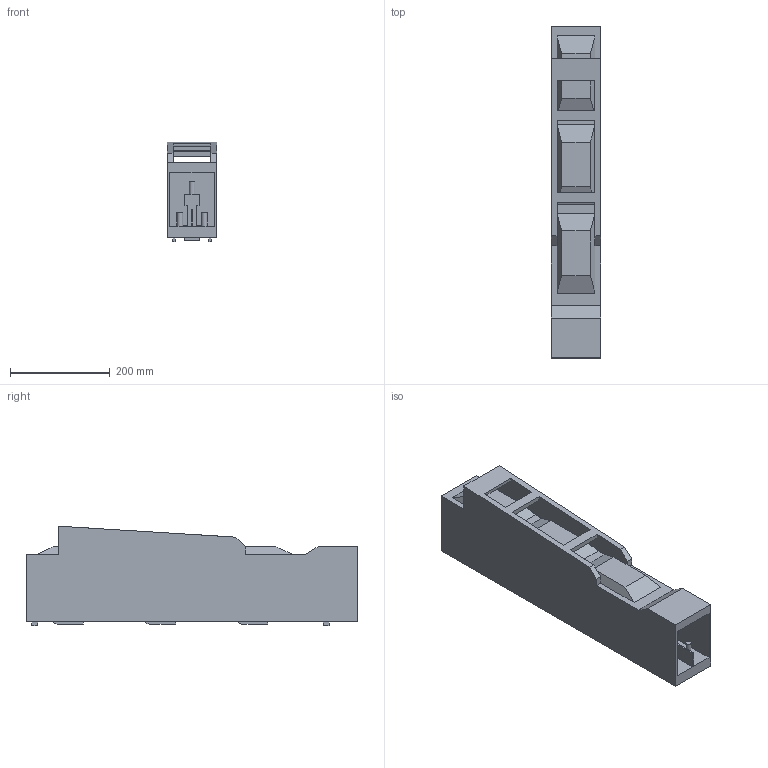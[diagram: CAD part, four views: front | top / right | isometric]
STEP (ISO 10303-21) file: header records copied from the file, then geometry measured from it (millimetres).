
FILE_DESCRIPTION (( 'STEP AP214' ), '1' );
FILE_NAME ('OptiVert-2-6-M.STEP', '2023-05-03T13:25:03', ( '' ), ( '' ), 'SwSTEP 2.0', 'SolidWorks 2018', '' );
FILE_SCHEMA (( 'AUTOMOTIVE_DESIGN' ));
Length unit declared in the file: millimetre
Products named in the file (1): OptiVert-2-6-M
Bounding box: 100 x 666 x 200 mm (x, y, z)
Volume: 8329627.3 mm3; surface area: 541006.7 mm2
Topology: 1 solids, 1 shells, 130 faces, 356 edges, 232 vertices
Faces by surface type: plane 112, cylinder 18
Entity records: 4114 total; most frequent: CARTESIAN_POINT 719, ORIENTED_EDGE 712, DIRECTION 654, EDGE_CURVE 356, LINE 320, VECTOR 320, VERTEX_POINT 232, AXIS2_PLACEMENT_3D 167
